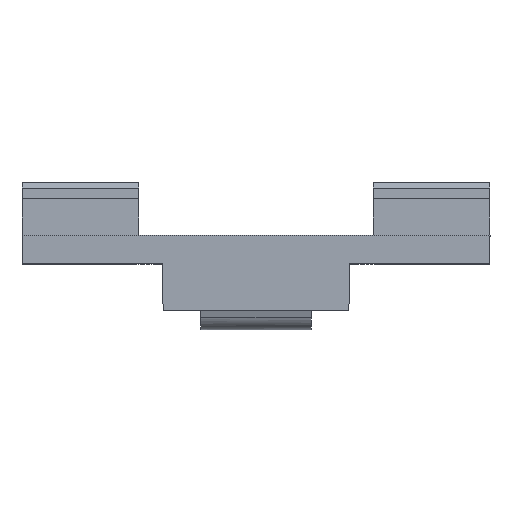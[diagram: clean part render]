
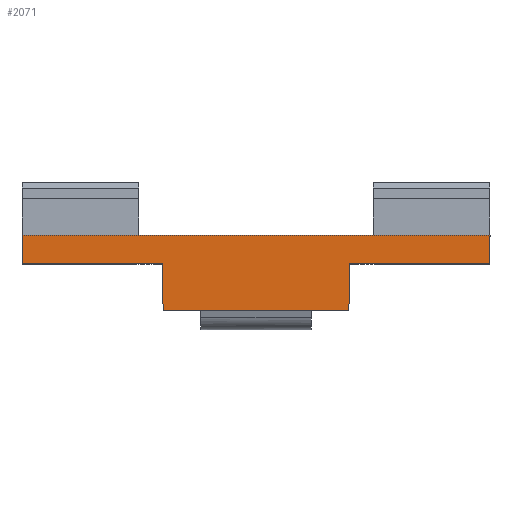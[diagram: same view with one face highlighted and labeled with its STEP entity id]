
A CAD part, top view. The second image highlights one B-rep face of the part: STEP entity #2071.
In plain terms, the highlighted planar face has unit normal (0, -0.009, 1).
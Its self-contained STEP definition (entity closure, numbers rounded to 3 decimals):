
#90 = VECTOR ( 'NONE', #498, 1000. ) ;
#130 = VECTOR ( 'NONE', #3346, 1000. ) ;
#196 = VERTEX_POINT ( 'NONE', #1554 ) ;
#232 = AXIS2_PLACEMENT_3D ( 'NONE', #825, #2860, #1117 ) ;
#249 = CARTESIAN_POINT ( 'NONE',  ( 11.754, -7.086, 22.538 ) ) ;
#328 = CARTESIAN_POINT ( 'NONE',  ( -23.176, -2.086, 22.582 ) ) ;
#387 = DIRECTION ( 'NONE',  ( -1., 0., 0. ) ) ;
#424 = CARTESIAN_POINT ( 'NONE',  ( -23.176, 0.914, 22.608 ) ) ;
#498 = DIRECTION ( 'NONE',  ( -0.009, -1., -0.009 ) ) ;
#551 = VERTEX_POINT ( 'NONE', #626 ) ;
#613 = VECTOR ( 'NONE', #1519, 1000. ) ;
#626 = CARTESIAN_POINT ( 'NONE',  ( 11.797, -2.086, 22.582 ) ) ;
#667 = VERTEX_POINT ( 'NONE', #3469 ) ;
#780 = CARTESIAN_POINT ( 'NONE',  ( -23.15, -2.086, 22.582 ) ) ;
#825 = CARTESIAN_POINT ( 'NONE',  ( -23.176, 0.914, 22.608 ) ) ;
#845 = VECTOR ( 'NONE', #3303, 1000. ) ;
#922 = LINE ( 'NONE', #3644, #2485 ) ;
#928 = LINE ( 'NONE', #1565, #845 ) ;
#984 = EDGE_CURVE ( 'NONE', #3768, #1690, #1402, .T. ) ;
#1060 = EDGE_CURVE ( 'NONE', #1690, #1772, #1161, .T. ) ;
#1089 = CARTESIAN_POINT ( 'NONE',  ( 11.821, 0.574, 22.605 ) ) ;
#1117 = DIRECTION ( 'NONE',  ( 0., -1., -0.009 ) ) ;
#1161 = LINE ( 'NONE', #3582, #2698 ) ;
#1186 = EDGE_CURVE ( 'NONE', #3653, #196, #3431, .T. ) ;
#1340 = EDGE_LOOP ( 'NONE', ( #1413, #2167, #1426, #3713, #2148, #3517, #2780, #2143, #3360, #1615 ) ) ;
#1402 = LINE ( 'NONE', #2677, #613 ) ;
#1413 = ORIENTED_EDGE ( 'NONE', *, *, #984, .T. ) ;
#1426 = ORIENTED_EDGE ( 'NONE', *, *, #3133, .F. ) ;
#1513 = DIRECTION ( 'NONE',  ( 1., 0., 0. ) ) ;
#1519 = DIRECTION ( 'NONE',  ( 0.009, 1., 0.009 ) ) ;
#1554 = CARTESIAN_POINT ( 'NONE',  ( -8.107, -7.086, 22.538 ) ) ;
#1565 = CARTESIAN_POINT ( 'NONE',  ( -23.176, -2.086, 22.582 ) ) ;
#1615 = ORIENTED_EDGE ( 'NONE', *, *, #2937, .T. ) ;
#1616 = DIRECTION ( 'NONE',  ( 1., 0., 0. ) ) ;
#1690 = VERTEX_POINT ( 'NONE', #2914 ) ;
#1745 = LINE ( 'NONE', #1089, #90 ) ;
#1772 = VERTEX_POINT ( 'NONE', #2058 ) ;
#1803 = CARTESIAN_POINT ( 'NONE',  ( -23.176, 0.914, 22.608 ) ) ;
#1912 = CARTESIAN_POINT ( 'NONE',  ( -8.173, 0.574, 22.605 ) ) ;
#1914 = DIRECTION ( 'NONE',  ( -0.009, 1., 0.009 ) ) ;
#1950 = VECTOR ( 'NONE', #3633, 1000. ) ;
#1951 = CARTESIAN_POINT ( 'NONE',  ( -23.176, -7.086, 22.538 ) ) ;
#2008 = VERTEX_POINT ( 'NONE', #780 ) ;
#2031 = LINE ( 'NONE', #1951, #1950 ) ;
#2058 = CARTESIAN_POINT ( 'NONE',  ( 14.324, 0.914, 22.608 ) ) ;
#2071 = ADVANCED_FACE ( 'NONE', ( #2667 ), #3136, .T. ) ;
#2108 = VECTOR ( 'NONE', #1616, 1000. ) ;
#2120 = VERTEX_POINT ( 'NONE', #249 ) ;
#2143 = ORIENTED_EDGE ( 'NONE', *, *, #3720, .F. ) ;
#2148 = ORIENTED_EDGE ( 'NONE', *, *, #2632, .F. ) ;
#2167 = ORIENTED_EDGE ( 'NONE', *, *, #1060, .T. ) ;
#2213 = LINE ( 'NONE', #328, #2966 ) ;
#2251 = EDGE_CURVE ( 'NONE', #667, #2838, #3146, .T. ) ;
#2485 = VECTOR ( 'NONE', #1914, 1000. ) ;
#2632 = EDGE_CURVE ( 'NONE', #2008, #2838, #922, .T. ) ;
#2667 = FACE_OUTER_BOUND ( 'NONE', #1340, .T. ) ;
#2677 = CARTESIAN_POINT ( 'NONE',  ( 26.82, 0.478, 22.604 ) ) ;
#2698 = VECTOR ( 'NONE', #387, 1000. ) ;
#2754 = EDGE_CURVE ( 'NONE', #551, #2120, #1745, .T. ) ;
#2780 = ORIENTED_EDGE ( 'NONE', *, *, #1186, .T. ) ;
#2833 = EDGE_CURVE ( 'NONE', #2008, #3653, #2213, .T. ) ;
#2838 = VERTEX_POINT ( 'NONE', #1803 ) ;
#2860 = DIRECTION ( 'NONE',  ( 0., -0.009, 1. ) ) ;
#2914 = CARTESIAN_POINT ( 'NONE',  ( 26.824, 0.914, 22.608 ) ) ;
#2937 = EDGE_CURVE ( 'NONE', #551, #3768, #928, .T. ) ;
#2966 = VECTOR ( 'NONE', #1513, 1000. ) ;
#3056 = CARTESIAN_POINT ( 'NONE',  ( -23.176, 0.914, 22.608 ) ) ;
#3133 = EDGE_CURVE ( 'NONE', #667, #1772, #3741, .T. ) ;
#3136 = PLANE ( 'NONE',  #232 ) ;
#3146 = LINE ( 'NONE', #3056, #130 ) ;
#3303 = DIRECTION ( 'NONE',  ( 1., 0., 0. ) ) ;
#3333 = CARTESIAN_POINT ( 'NONE',  ( -8.15, -2.086, 22.582 ) ) ;
#3339 = VECTOR ( 'NONE', #3642, 1000. ) ;
#3346 = DIRECTION ( 'NONE',  ( -1., 0., 0. ) ) ;
#3360 = ORIENTED_EDGE ( 'NONE', *, *, #2754, .F. ) ;
#3431 = LINE ( 'NONE', #1912, #3339 ) ;
#3469 = CARTESIAN_POINT ( 'NONE',  ( -10.676, 0.914, 22.608 ) ) ;
#3517 = ORIENTED_EDGE ( 'NONE', *, *, #2833, .T. ) ;
#3582 = CARTESIAN_POINT ( 'NONE',  ( -23.176, 0.914, 22.608 ) ) ;
#3633 = DIRECTION ( 'NONE',  ( -1., 0., 0. ) ) ;
#3642 = DIRECTION ( 'NONE',  ( 0.009, -1., -0.009 ) ) ;
#3644 = CARTESIAN_POINT ( 'NONE',  ( -23.173, 0.574, 22.605 ) ) ;
#3649 = CARTESIAN_POINT ( 'NONE',  ( 26.797, -2.086, 22.582 ) ) ;
#3653 = VERTEX_POINT ( 'NONE', #3333 ) ;
#3713 = ORIENTED_EDGE ( 'NONE', *, *, #2251, .T. ) ;
#3720 = EDGE_CURVE ( 'NONE', #2120, #196, #2031, .T. ) ;
#3741 = LINE ( 'NONE', #424, #2108 ) ;
#3768 = VERTEX_POINT ( 'NONE', #3649 ) ;
